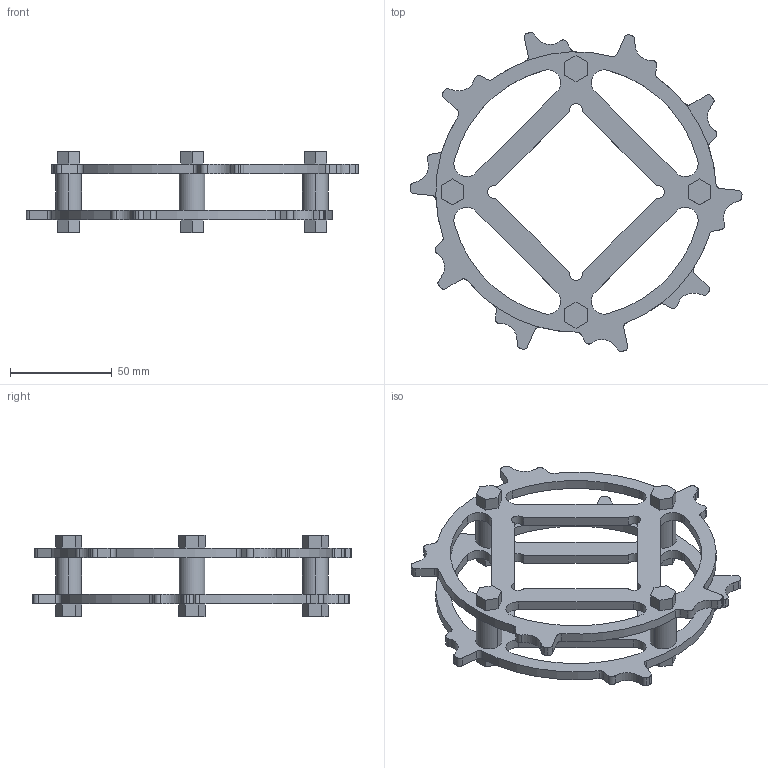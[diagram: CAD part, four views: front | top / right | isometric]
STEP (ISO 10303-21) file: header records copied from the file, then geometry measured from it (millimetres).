
FILE_DESCRIPTION((''),'2;1');
FILE_NAME('S200_AR_METAL_64X60_SQ_ASM','2008-12-12T',('jmumphre'),(''),'PRO/ENGINEER BY PARAMETRIC TECHNOLOGY CORPORATION, 2008150','PRO/ENGINEER BY PARAMETRIC TECHNOLOGY CORPORATION, 2008150','');
FILE_SCHEMA(('CONFIG_CONTROL_DESIGN'));
Length unit declared in the file: inch
Products named in the file (4): S200_TP_AR_64X60_SQ; S200_SPACER_BUSHING; BOLTS_N_NUTS_4-780X1-084; S200_AR_METAL_64X60_SQ_ASM
Assembly tree (7 placements, depth 2):
  S200_AR_METAL_64X60_SQ_ASM
    S200_TP_AR_64X60_SQ  x2
    S200_SPACER_BUSHING  x4
    BOLTS_N_NUTS_4-780X1-084
Bounding box: 163.46 x 157.17 x 40.23 mm (x, y, z)
Volume: 84015.3 mm3; surface area: 54273.8 mm2
Topology: 10 solids, 10 shells, 274 faces, 738 edges, 492 vertices
Faces by surface type: cylinder 152, plane 122
Entity records: 5389 total; most frequent: DIRECTION 949, CARTESIAN_POINT 913, ORIENTED_EDGE 882, EDGE_CURVE 441, AXIS2_PLACEMENT_3D 330, VERTEX_POINT 294, VECTOR 289, LINE 289
